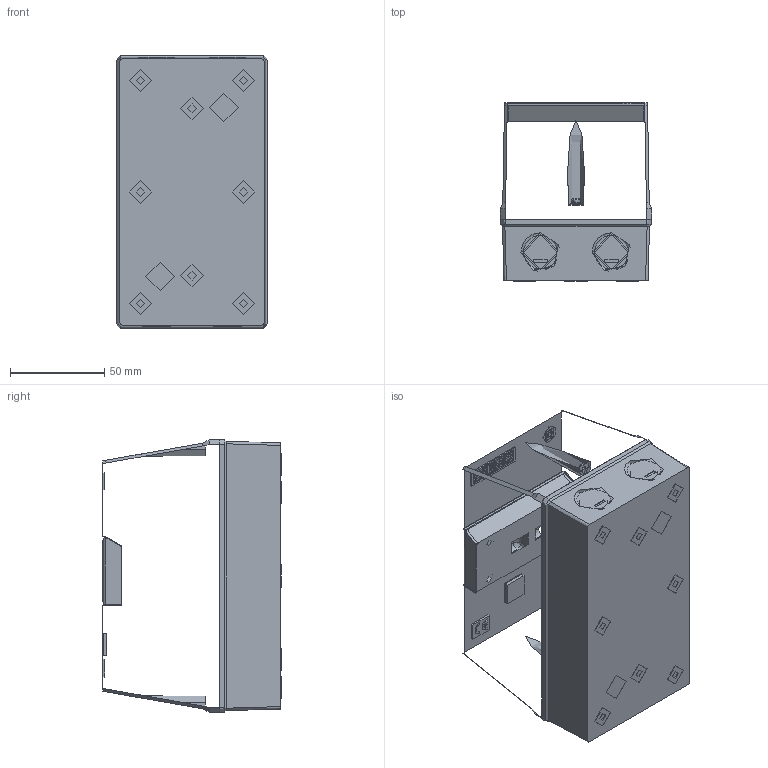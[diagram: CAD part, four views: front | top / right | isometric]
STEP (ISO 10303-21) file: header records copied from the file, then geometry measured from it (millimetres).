
FILE_DESCRIPTION((''),'2; 1');
FILE_NAME('','2026-03-27T11:24:18',(''),(''),'CST STEP Exporter V1.0','Unknown','');
FILE_SCHEMA(('CONFIG_CONTROL_DESIGN'));
Length unit declared in the file: metre
Assembly tree (9 placements, depth 2):
  (unnamed)
    (unnamed)
    (unnamed)
    (unnamed)
    (unnamed)
    (unnamed)
    (unnamed)
    (unnamed)
    (unnamed)
    (unnamed)
Bounding box: 80.5 x 94.95 x 145 mm (x, y, z)
Topology: 0 solids, 50 shells, 376 faces, 1020 edges, 708 vertices
Faces by surface type: plane 241, cylinder 87, bspline 20, torus 14, cone 10, sphere 4
Full cylindrical faces by diameter (mm): 3 x6, 4.4 x8, 5.1 x2, 9 x1, 11.8 x8, 15 x2, 20.7 x4
Entity records: 16089 total; most frequent: CARTESIAN_POINT 3637, DIRECTION 1814, ORIENTED_EDGE 1730, EDGE_CURVE 977, VERTEX_POINT 666, VECTOR 642, LINE 642, AXIS2_PLACEMENT_3D 586
